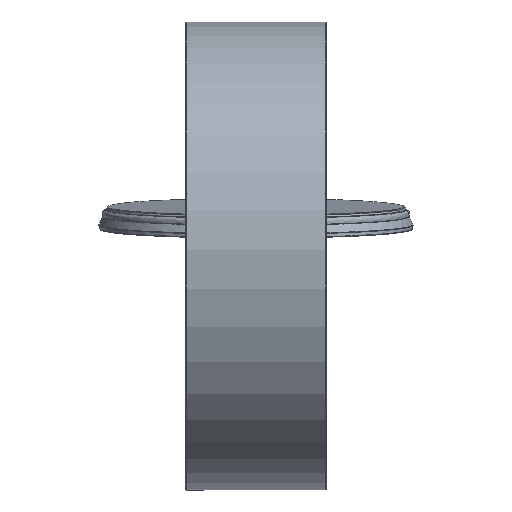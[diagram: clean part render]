
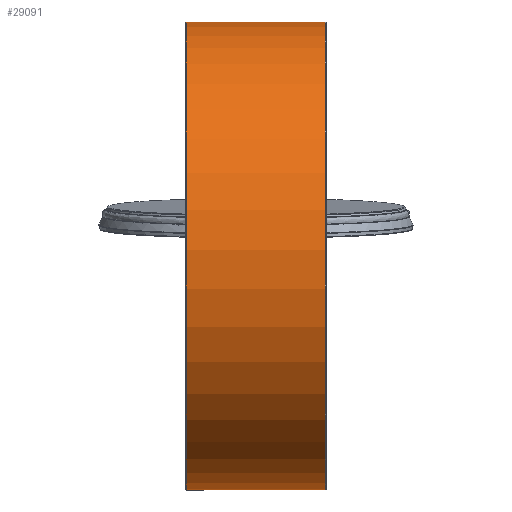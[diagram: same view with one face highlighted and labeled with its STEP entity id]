
A CAD part, left-side view. The second image highlights one B-rep face of the part: STEP entity #29091.
In plain terms, the highlighted free-form (B-spline) face has degree [2, 1] with [7, 2] control points.
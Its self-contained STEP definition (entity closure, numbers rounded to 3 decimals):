
#27836=CARTESIAN_POINT('V16',(89.5,150.,
   0.0));
#27837=VERTEX_POINT('V16',#27836);
#27861=CARTESIAN_POINT('E22',(89.5,150.,
   0.0));
#27862=CARTESIAN_POINT('E22',(89.5,150.,
   -259.808));
#27863=CARTESIAN_POINT('E22',(89.5,-75.,
   -129.904));
#27864=CARTESIAN_POINT('E22',(89.5,
   -300.,0.));
#27865=CARTESIAN_POINT('E22',(89.5,-75.,
   129.904));
#27866=CARTESIAN_POINT('E22',(89.5,150.,
   259.808));
#27867=CARTESIAN_POINT('E22',(89.5,150.,
   0.0));
#27875=(BOUNDED_CURVE()B_SPLINE_CURVE(2,(#27861,#27862,#27863,
   #27864,#27865,#27866,#27867),.CIRCULAR_ARC.,.T.,.U.)
   B_SPLINE_CURVE_WITH_KNOTS((3,2,2,3),(0.0,5.838,
   11.677,17.515),.UNSPECIFIED.)CURVE()
   GEOMETRIC_REPRESENTATION_ITEM()RATIONAL_B_SPLINE_CURVE((1.0,
   0.5,1.0,0.5,1.0,0.5,1.0)
   )REPRESENTATION_ITEM('E22'));
#27876=EDGE_CURVE('E22',#27837,#27837,#27875,.T.);
#28915=CARTESIAN_POINT('V14',(76.038,150.,
   0.0));
#28916=VERTEX_POINT('V14',#28915);
#28917=CARTESIAN_POINT('V3',(76.038,132.5,
   70.312));
#28918=VERTEX_POINT('V3',#28917);
#28919=CARTESIAN_POINT('E17',(76.038,150.,
   0.0));
#28920=CARTESIAN_POINT('E17',(76.038,150.,
   37.334));
#28921=CARTESIAN_POINT('E17',(76.038,132.5,
   70.312));
#28929=(BOUNDED_CURVE()B_SPLINE_CURVE(2,(#28919,#28920,#28921),
   .CIRCULAR_ARC.,.F.,.U.)CURVE()GEOMETRIC_REPRESENTATION_ITEM()
   QUASI_UNIFORM_CURVE()RATIONAL_B_SPLINE_CURVE((1.0,
   0.874,0.812))REPRESENTATION_ITEM('E17'));
#28930=EDGE_CURVE('E17',#28916,#28918,#28929,.T.);
#28932=CARTESIAN_POINT('V2',(76.038,132.5,
   -70.312));
#28933=VERTEX_POINT('V2',#28932);
#28939=CARTESIAN_POINT('E18',(76.038,132.5,
   -70.312));
#28940=CARTESIAN_POINT('E18',(76.038,150.,
   -37.334));
#28941=CARTESIAN_POINT('E18',(76.038,150.,
   0.0));
#28949=(BOUNDED_CURVE()B_SPLINE_CURVE(2,(#28939,#28940,#28941),
   .CIRCULAR_ARC.,.F.,.U.)CURVE()GEOMETRIC_REPRESENTATION_ITEM()
   QUASI_UNIFORM_CURVE()RATIONAL_B_SPLINE_CURVE((0.812,
   0.874,1.0))REPRESENTATION_ITEM('E18'));
#28950=EDGE_CURVE('E18',#28933,#28916,#28949,.T.);
#28960=CARTESIAN_POINT('V1',(13.963,132.5,
   -70.312));
#28961=VERTEX_POINT('V1',#28960);
#28962=CARTESIAN_POINT('E1',(13.963,132.5,
   -70.312));
#28963=CARTESIAN_POINT('E1',(76.038,132.5,
   -70.312));
#28964=QUASI_UNIFORM_CURVE('E1',1,(#28962,#28963),.POLYLINE_FORM.,
   .F.,.U.);
#28965=EDGE_CURVE('E1',#28961,#28933,#28964,.T.);
#28968=CARTESIAN_POINT('V4',(13.963,132.5,
   70.312));
#28969=VERTEX_POINT('V4',#28968);
#28970=CARTESIAN_POINT('E3',(76.038,132.5,
   70.312));
#28971=CARTESIAN_POINT('E3',(13.963,132.5,
   70.312));
#28972=QUASI_UNIFORM_CURVE('E3',1,(#28970,#28971),.POLYLINE_FORM.,
   .F.,.U.);
#28973=EDGE_CURVE('E3',#28918,#28969,#28972,.T.);
#28997=CARTESIAN_POINT('V15',(13.963,150.,
   0.0));
#28998=VERTEX_POINT('V15',#28997);
#28999=CARTESIAN_POINT('E19',(13.963,150.,
   0.0));
#29000=CARTESIAN_POINT('E19',(13.963,150.,
   -37.334));
#29001=CARTESIAN_POINT('E19',(13.963,132.5,
   -70.312));
#29009=(BOUNDED_CURVE()B_SPLINE_CURVE(2,(#28999,#29000,#29001),
   .CIRCULAR_ARC.,.F.,.U.)CURVE()GEOMETRIC_REPRESENTATION_ITEM()
   QUASI_UNIFORM_CURVE()RATIONAL_B_SPLINE_CURVE((1.0,
   0.874,0.812))REPRESENTATION_ITEM('E19'));
#29010=EDGE_CURVE('E19',#28998,#28961,#29009,.T.);
#29013=CARTESIAN_POINT('E20',(13.963,132.5,
   70.312));
#29014=CARTESIAN_POINT('E20',(13.963,150.,
   37.334));
#29015=CARTESIAN_POINT('E20',(13.963,150.,
   0.0));
#29023=(BOUNDED_CURVE()B_SPLINE_CURVE(2,(#29013,#29014,#29015),
   .CIRCULAR_ARC.,.F.,.U.)CURVE()GEOMETRIC_REPRESENTATION_ITEM()
   QUASI_UNIFORM_CURVE()RATIONAL_B_SPLINE_CURVE((0.812,
   0.874,1.0))REPRESENTATION_ITEM('E20'));
#29024=EDGE_CURVE('E20',#28969,#28998,#29023,.T.);
#29029=CARTESIAN_POINT('F7',(0.5,150.,
   0.0));
#29030=CARTESIAN_POINT('F7',(0.5,150.,
   259.808));
#29031=CARTESIAN_POINT('F7',(0.5,-75.,
   129.904));
#29032=CARTESIAN_POINT('F7',(0.5,-300.,
   0.));
#29033=CARTESIAN_POINT('F7',(0.5,-75.,
   -129.904));
#29034=CARTESIAN_POINT('F7',(0.5,150.,
   -259.808));
#29035=CARTESIAN_POINT('F7',(0.5,150.,
   0.0));
#29036=CARTESIAN_POINT('F7',(89.5,150.,
   0.0));
#29037=CARTESIAN_POINT('F7',(89.5,150.,
   259.808));
#29038=CARTESIAN_POINT('F7',(89.5,-75.,
   129.904));
#29039=CARTESIAN_POINT('F7',(89.5,-300.,
   0.));
#29040=CARTESIAN_POINT('F7',(89.5,-75.,
   -129.904));
#29041=CARTESIAN_POINT('F7',(89.5,150.,
   -259.808));
#29042=CARTESIAN_POINT('F7',(89.5,150.,
   0.0));
#29050=(BOUNDED_SURFACE()B_SPLINE_SURFACE(2,1,((#29029,#29036),(
   #29030,#29037),(#29031,#29038),(#29032,#29039),(#29033,
   #29040),(#29034,#29041),(#29035,#29042)),.CYLINDRICAL_SURF.,
   .T.,.F.,.U.)B_SPLINE_SURFACE_WITH_KNOTS((3,2,2,3),(2,2),(0.0,
   5.838,11.677,17.515),(0.0,
   1.0),.UNSPECIFIED.)GEOMETRIC_REPRESENTATION_ITEM()
   RATIONAL_B_SPLINE_SURFACE(((1.0,1.0),(0.5,
   0.5),(1.0,1.0),(0.5,
   0.5),(1.0,1.0),(0.5,
   0.5),(1.0,1.0)))REPRESENTATION_ITEM('F7')SURFACE()
   );
#29051=ORIENTED_EDGE('E19',*,*,#29010,.F.);
#29052=CARTESIAN_POINT('V17',(0.5,150.0,0.0));
#29053=VERTEX_POINT('V17',#29052);
#29054=CARTESIAN_POINT('E23',(13.963,150.,
   0.0));
#29055=CARTESIAN_POINT('E23',(0.5,150.,
   0.0));
#29056=B_SPLINE_CURVE_WITH_KNOTS('E23',1,(#29054,#29055),
   .POLYLINE_FORM.,.F.,.U.,(2,2),(0.849,1.0),
   .UNSPECIFIED.);
#29057=EDGE_CURVE('E23',#28998,#29053,#29056,.T.);
#29058=ORIENTED_EDGE('E23',*,*,#29057,.T.);
#29059=CARTESIAN_POINT('E24',(0.5,150.0,0.0));
#29060=CARTESIAN_POINT('E24',(0.5,150.,
   -259.808));
#29061=CARTESIAN_POINT('E24',(0.5,-75.,
   -129.904));
#29062=CARTESIAN_POINT('E24',(0.5,-300.,
   0.));
#29063=CARTESIAN_POINT('E24',(0.5,-75.,
   129.904));
#29064=CARTESIAN_POINT('E24',(0.5,150.0,
   259.808));
#29065=CARTESIAN_POINT('E24',(0.5,150.0,0.0));
#29073=(BOUNDED_CURVE()B_SPLINE_CURVE(2,(#29059,#29060,#29061,
   #29062,#29063,#29064,#29065),.CIRCULAR_ARC.,.T.,.U.)
   B_SPLINE_CURVE_WITH_KNOTS((3,2,2,3),(0.0,733.622,
   1467.244,2200.867),.UNSPECIFIED.)CURVE()
   GEOMETRIC_REPRESENTATION_ITEM()RATIONAL_B_SPLINE_CURVE((1.0,
   0.5,1.0,0.5,1.0,0.5,1.0)
   )REPRESENTATION_ITEM('E24'));
#29074=EDGE_CURVE('E24',#29053,#29053,#29073,.T.);
#29075=ORIENTED_EDGE('E24',*,*,#29074,.T.);
#29076=ORIENTED_EDGE('E23',*,*,#29057,.F.);
#29077=ORIENTED_EDGE('F6',*,*,#29024,.F.);
#29078=ORIENTED_EDGE('E3',*,*,#28973,.F.);
#29079=ORIENTED_EDGE('E17',*,*,#28930,.F.);
#29080=CARTESIAN_POINT('E21',(89.5,150.,
   0.0));
#29081=CARTESIAN_POINT('E21',(76.038,150.,
   0.0));
#29082=B_SPLINE_CURVE_WITH_KNOTS('E21',1,(#29080,#29081),
   .POLYLINE_FORM.,.F.,.U.,(2,2),(0.0,0.151),
   .UNSPECIFIED.);
#29083=EDGE_CURVE('E21',#27837,#28916,#29082,.T.);
#29084=ORIENTED_EDGE('E21',*,*,#29083,.F.);
#29085=ORIENTED_EDGE('F9',*,*,#27876,.F.);
#29086=ORIENTED_EDGE('E21',*,*,#29083,.T.);
#29087=ORIENTED_EDGE('F5',*,*,#28950,.F.);
#29088=ORIENTED_EDGE('E1',*,*,#28965,.F.);
#29089=EDGE_LOOP('F7',(#29051,#29058,#29075,#29076,#29077,#29078,
   #29079,#29084,#29085,#29086,#29087,#29088));
#29090=FACE_OUTER_BOUND('F7',#29089,.F.);
#29091=ADVANCED_FACE('F7',(#29090),#29050,.T.);
